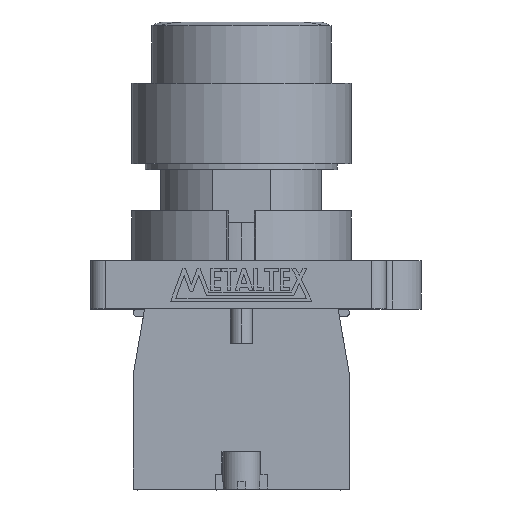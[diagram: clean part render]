
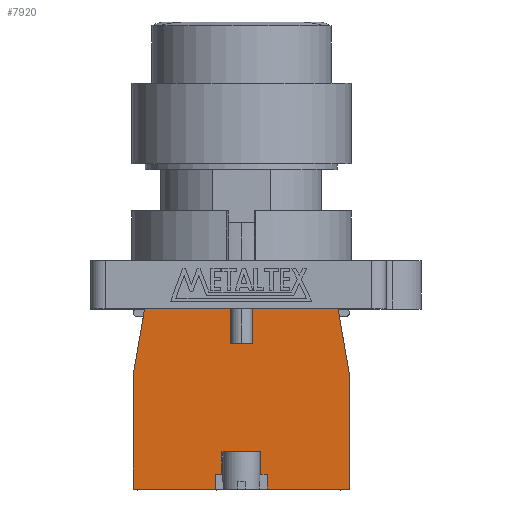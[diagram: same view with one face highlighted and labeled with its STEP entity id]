
A CAD part, top view. The second image highlights one B-rep face of the part: STEP entity #7920.
In plain terms, the highlighted planar face has unit normal (0, 0, 1).
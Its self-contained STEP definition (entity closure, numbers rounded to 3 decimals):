
#25 = LINE ( 'NONE', #26, #10764 ) ;
#26 = CARTESIAN_POINT ( 'NONE',  ( -14.5, 0., 7.45 ) ) ;
#27 = DIRECTION ( 'NONE',  ( 1., 0., 0. ) ) ;
#1307 = VECTOR ( 'NONE', #2758, 1000. ) ;
#2756 = LINE ( 'NONE', #2757, #1307 ) ;
#2757 = CARTESIAN_POINT ( 'NONE',  ( 14.5, 15.5, 7.45 ) ) ;
#2758 = DIRECTION ( 'NONE',  ( -0.17, 0.985, 0. ) ) ;
#3412 = EDGE_CURVE ( 'NONE', #8499, #8735, #9032, .T. ) ;
#3413 = EDGE_CURVE ( 'NONE', #8610, #8488, #9036, .T. ) ;
#3414 = EDGE_CURVE ( 'NONE', #8628, #8694, #9039, .T. ) ;
#3420 = EDGE_CURVE ( 'NONE', #8515, #8733, #9057, .T. ) ;
#3421 = EDGE_CURVE ( 'NONE', #8691, #8596, #9060, .T. ) ;
#3422 = EDGE_CURVE ( 'NONE', #8692, #8596, #9063, .T. ) ;
#3423 = EDGE_CURVE ( 'NONE', #8692, #8518, #9066, .T. ) ;
#3424 = EDGE_CURVE ( 'NONE', #8693, #8517, #9069, .T. ) ;
#3425 = EDGE_CURVE ( 'NONE', #8694, #8693, #9072, .T. ) ;
#3453 = ORIENTED_EDGE ( 'NONE', *, *, #5991, .T. ) ;
#3455 = ORIENTED_EDGE ( 'NONE', *, *, #3420, .F. ) ;
#3456 = ORIENTED_EDGE ( 'NONE', *, *, #6034, .T. ) ;
#3457 = ORIENTED_EDGE ( 'NONE', *, *, #7687, .T. ) ;
#3458 = ORIENTED_EDGE ( 'NONE', *, *, #12535, .T. ) ;
#3460 = ORIENTED_EDGE ( 'NONE', *, *, #6156, .T. ) ;
#3461 = ORIENTED_EDGE ( 'NONE', *, *, #3422, .T. ) ;
#3462 = ORIENTED_EDGE ( 'NONE', *, *, #3421, .F. ) ;
#3463 = ORIENTED_EDGE ( 'NONE', *, *, #3423, .F. ) ;
#3464 = ORIENTED_EDGE ( 'NONE', *, *, #5997, .F. ) ;
#3465 = ORIENTED_EDGE ( 'NONE', *, *, #3425, .T. ) ;
#3466 = ORIENTED_EDGE ( 'NONE', *, *, #3424, .T. ) ;
#3467 = ORIENTED_EDGE ( 'NONE', *, *, #3414, .T. ) ;
#3468 = ORIENTED_EDGE ( 'NONE', *, *, #9355, .T. ) ;
#3469 = ORIENTED_EDGE ( 'NONE', *, *, #6042, .T. ) ;
#3470 = ORIENTED_EDGE ( 'NONE', *, *, #7633, .T. ) ;
#3471 = ORIENTED_EDGE ( 'NONE', *, *, #3412, .T. ) ;
#3472 = ORIENTED_EDGE ( 'NONE', *, *, #3413, .T. ) ;
#4112 = EDGE_LOOP ( 'NONE', ( #3471, #3469, #3472, #3470, #3468, #3467, #3465, #3466, #3464, #3463, #3461, #3462, #3460, #3457, #3458, #3456, #3455, #3453 ) ) ;
#4796 = PLANE ( 'NONE',  #11150 ) ;
#4797 = CARTESIAN_POINT ( 'NONE',  ( 0., 0., 7.45 ) ) ;
#4798 = DIRECTION ( 'NONE',  ( 0., 0., 1. ) ) ;
#4799 = DIRECTION ( 'NONE',  ( 1., 0., 0. ) ) ;
#5467 = CARTESIAN_POINT ( 'NONE',  ( -14.5, 15.5, 7.45 ) ) ;
#5478 = CARTESIAN_POINT ( 'NONE',  ( -1.5, 19.6, 7.45 ) ) ;
#5494 = CARTESIAN_POINT ( 'NONE',  ( 1.5, 19.6, 7.45 ) ) ;
#5496 = CARTESIAN_POINT ( 'NONE',  ( -2.6, 5., 7.45 ) ) ;
#5497 = CARTESIAN_POINT ( 'NONE',  ( 2.6, 5., 7.45 ) ) ;
#5532 = CARTESIAN_POINT ( 'NONE',  ( 13., 24.2, 7.45 ) ) ;
#5544 = CARTESIAN_POINT ( 'NONE',  ( 14.5, 15.5, 7.45 ) ) ;
#5565 = CARTESIAN_POINT ( 'NONE',  ( 14.5, 0., 7.45 ) ) ;
#5575 = CARTESIAN_POINT ( 'NONE',  ( 3.5, 2., 7.45 ) ) ;
#5589 = CARTESIAN_POINT ( 'NONE',  ( -13., 24.2, 7.45 ) ) ;
#5607 = CARTESIAN_POINT ( 'NONE',  ( -3.5, 0., 7.45 ) ) ;
#5616 = CARTESIAN_POINT ( 'NONE',  ( -14.5, 0., 7.45 ) ) ;
#5670 = CARTESIAN_POINT ( 'NONE',  ( 3.5, 0., 7.45 ) ) ;
#5671 = CARTESIAN_POINT ( 'NONE',  ( 2.6, 2., 7.45 ) ) ;
#5672 = CARTESIAN_POINT ( 'NONE',  ( -2.6, 2., 7.45 ) ) ;
#5673 = CARTESIAN_POINT ( 'NONE',  ( -3.5, 2., 7.45 ) ) ;
#5712 = CARTESIAN_POINT ( 'NONE',  ( 1.5, 24.2, 7.45 ) ) ;
#5714 = CARTESIAN_POINT ( 'NONE',  ( -1.5, 24.2, 7.45 ) ) ;
#5991 = EDGE_CURVE ( 'NONE', #8515, #8499, #9141, .T. ) ;
#5997 = EDGE_CURVE ( 'NONE', #8518, #8517, #9159, .T. ) ;
#6034 = EDGE_CURVE ( 'NONE', #8553, #8733, #9270, .T. ) ;
#6042 = EDGE_CURVE ( 'NONE', #8735, #8610, #9294, .T. ) ;
#6156 = EDGE_CURVE ( 'NONE', #8691, #8586, #9312, .T. ) ;
#7633 = EDGE_CURVE ( 'NONE', #8488, #8637, #9384, .T. ) ;
#7687 = EDGE_CURVE ( 'NONE', #8586, #8565, #9543, .T. ) ;
#7920 = ADVANCED_FACE ( 'NONE', ( #11155 ), #4796, .T. ) ;
#8488 = VERTEX_POINT ( 'NONE', #5467 ) ;
#8499 = VERTEX_POINT ( 'NONE', #5478 ) ;
#8515 = VERTEX_POINT ( 'NONE', #5494 ) ;
#8517 = VERTEX_POINT ( 'NONE', #5496 ) ;
#8518 = VERTEX_POINT ( 'NONE', #5497 ) ;
#8553 = VERTEX_POINT ( 'NONE', #5532 ) ;
#8565 = VERTEX_POINT ( 'NONE', #5544 ) ;
#8586 = VERTEX_POINT ( 'NONE', #5565 ) ;
#8596 = VERTEX_POINT ( 'NONE', #5575 ) ;
#8610 = VERTEX_POINT ( 'NONE', #5589 ) ;
#8628 = VERTEX_POINT ( 'NONE', #5607 ) ;
#8637 = VERTEX_POINT ( 'NONE', #5616 ) ;
#8691 = VERTEX_POINT ( 'NONE', #5670 ) ;
#8692 = VERTEX_POINT ( 'NONE', #5671 ) ;
#8693 = VERTEX_POINT ( 'NONE', #5672 ) ;
#8694 = VERTEX_POINT ( 'NONE', #5673 ) ;
#8733 = VERTEX_POINT ( 'NONE', #5712 ) ;
#8735 = VERTEX_POINT ( 'NONE', #5714 ) ;
#9032 = LINE ( 'NONE', #9033, #11561 ) ;
#9033 = CARTESIAN_POINT ( 'NONE',  ( -1.5, 19.6, 7.45 ) ) ;
#9034 = DIRECTION ( 'NONE',  ( 0., 1., 0. ) ) ;
#9036 = LINE ( 'NONE', #9037, #11559 ) ;
#9037 = CARTESIAN_POINT ( 'NONE',  ( -13., 24.2, 7.45 ) ) ;
#9038 = DIRECTION ( 'NONE',  ( -0.17, -0.985, 0. ) ) ;
#9039 = LINE ( 'NONE', #9040, #11558 ) ;
#9040 = CARTESIAN_POINT ( 'NONE',  ( -3.5, 0., 7.45 ) ) ;
#9041 = DIRECTION ( 'NONE',  ( 0., 1., 0. ) ) ;
#9057 = LINE ( 'NONE', #9058, #11577 ) ;
#9058 = CARTESIAN_POINT ( 'NONE',  ( 1.5, 19.6, 7.45 ) ) ;
#9059 = DIRECTION ( 'NONE',  ( 0., 1., 0. ) ) ;
#9060 = LINE ( 'NONE', #9061, #11544 ) ;
#9061 = CARTESIAN_POINT ( 'NONE',  ( 3.5, 0., 7.45 ) ) ;
#9062 = DIRECTION ( 'NONE',  ( 0., 1., 0. ) ) ;
#9063 = LINE ( 'NONE', #9064, #11528 ) ;
#9064 = CARTESIAN_POINT ( 'NONE',  ( 0., 2., 7.45 ) ) ;
#9065 = DIRECTION ( 'NONE',  ( 1., 0., 0. ) ) ;
#9066 = LINE ( 'NONE', #9067, #11529 ) ;
#9067 = CARTESIAN_POINT ( 'NONE',  ( 2.6, 0., 7.45 ) ) ;
#9068 = DIRECTION ( 'NONE',  ( 0., 1., 0. ) ) ;
#9069 = LINE ( 'NONE', #9070, #11530 ) ;
#9070 = CARTESIAN_POINT ( 'NONE',  ( -2.6, 0., 7.45 ) ) ;
#9071 = DIRECTION ( 'NONE',  ( 0., 1., 0. ) ) ;
#9072 = LINE ( 'NONE', #9073, #11533 ) ;
#9073 = CARTESIAN_POINT ( 'NONE',  ( 0., 2., 7.45 ) ) ;
#9074 = DIRECTION ( 'NONE',  ( 1., 0., 0. ) ) ;
#9141 = LINE ( 'NONE', #9142, #11502 ) ;
#9142 = CARTESIAN_POINT ( 'NONE',  ( 0., 19.6, 7.45 ) ) ;
#9143 = DIRECTION ( 'NONE',  ( -1., 0., 0. ) ) ;
#9159 = LINE ( 'NONE', #9160, #11505 ) ;
#9160 = CARTESIAN_POINT ( 'NONE',  ( 0., 5., 7.45 ) ) ;
#9161 = DIRECTION ( 'NONE',  ( -1., 0., 0. ) ) ;
#9270 = LINE ( 'NONE', #9271, #11610 ) ;
#9271 = CARTESIAN_POINT ( 'NONE',  ( 13., 24.2, 7.45 ) ) ;
#9272 = DIRECTION ( 'NONE',  ( -1., 0., 0. ) ) ;
#9294 = LINE ( 'NONE', #9295, #11686 ) ;
#9295 = CARTESIAN_POINT ( 'NONE',  ( 13., 24.2, 7.45 ) ) ;
#9296 = DIRECTION ( 'NONE',  ( -1., 0., 0. ) ) ;
#9312 = LINE ( 'NONE', #9313, #11678 ) ;
#9313 = CARTESIAN_POINT ( 'NONE',  ( -14.5, 0., 7.45 ) ) ;
#9314 = DIRECTION ( 'NONE',  ( 1., 0., 0. ) ) ;
#9355 = EDGE_CURVE ( 'NONE', #8637, #8628, #25, .T. ) ;
#9384 = LINE ( 'NONE', #9385, #11518 ) ;
#9385 = CARTESIAN_POINT ( 'NONE',  ( -14.5, 15.5, 7.45 ) ) ;
#9386 = DIRECTION ( 'NONE',  ( 0., -1., 0. ) ) ;
#9543 = LINE ( 'NONE', #9544, #11805 ) ;
#9544 = CARTESIAN_POINT ( 'NONE',  ( 14.5, 0., 7.45 ) ) ;
#9545 = DIRECTION ( 'NONE',  ( 0., 1., 0. ) ) ;
#10764 = VECTOR ( 'NONE', #27, 1000. ) ;
#11150 = AXIS2_PLACEMENT_3D ( 'NONE', #4797, #4798, #4799 ) ;
#11155 = FACE_OUTER_BOUND ( 'NONE', #4112, .T. ) ;
#11502 = VECTOR ( 'NONE', #9143, 1000. ) ;
#11505 = VECTOR ( 'NONE', #9161, 1000. ) ;
#11518 = VECTOR ( 'NONE', #9386, 1000. ) ;
#11528 = VECTOR ( 'NONE', #9065, 1000. ) ;
#11529 = VECTOR ( 'NONE', #9068, 1000. ) ;
#11530 = VECTOR ( 'NONE', #9071, 1000. ) ;
#11533 = VECTOR ( 'NONE', #9074, 1000. ) ;
#11544 = VECTOR ( 'NONE', #9062, 1000. ) ;
#11558 = VECTOR ( 'NONE', #9041, 1000. ) ;
#11559 = VECTOR ( 'NONE', #9038, 1000. ) ;
#11561 = VECTOR ( 'NONE', #9034, 1000. ) ;
#11577 = VECTOR ( 'NONE', #9059, 1000. ) ;
#11610 = VECTOR ( 'NONE', #9272, 1000. ) ;
#11678 = VECTOR ( 'NONE', #9314, 1000. ) ;
#11686 = VECTOR ( 'NONE', #9296, 1000. ) ;
#11805 = VECTOR ( 'NONE', #9545, 1000. ) ;
#12535 = EDGE_CURVE ( 'NONE', #8565, #8553, #2756, .T. ) ;
